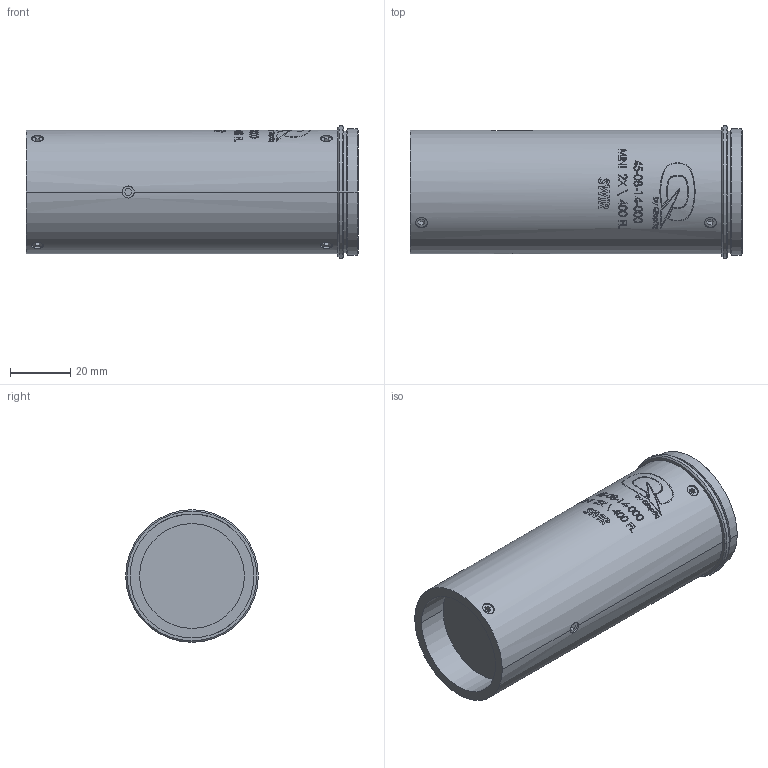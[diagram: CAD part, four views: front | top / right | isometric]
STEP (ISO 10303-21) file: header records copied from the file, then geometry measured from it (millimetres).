
FILE_DESCRIPTION (( 'STEP AP203' ), '1' );
FILE_NAME ('45-08-14-000 OUTLINE.STEP', '2020-07-13T22:52:02', ( '' ), ( '' ), 'SwSTEP 2.0', 'SolidWorks 2018', '' );
FILE_SCHEMA (( 'CONFIG_CONTROL_DESIGN' ));
Length unit declared in the file: millimetre
Products named in the file (1): 45-08-14-000 OUTLINE
Bounding box: 110.65 x 44.2 x 44.2 mm (x, y, z)
Volume: 134281.9 mm3; surface area: 19418.7 mm2
Topology: 1 solids, 1 shells, 174 faces, 684 edges, 590 vertices
Faces by surface type: cylinder 90, plane 74, cone 8, sphere 2
Entity records: 12621 total; most frequent: CARTESIAN_POINT 6855, ORIENTED_EDGE 1368, DIRECTION 918, EDGE_CURVE 684, VERTEX_POINT 590, AXIS2_PLACEMENT_3D 329, B_SPLINE_CURVE_WITH_KNOTS 270, VECTOR 260
